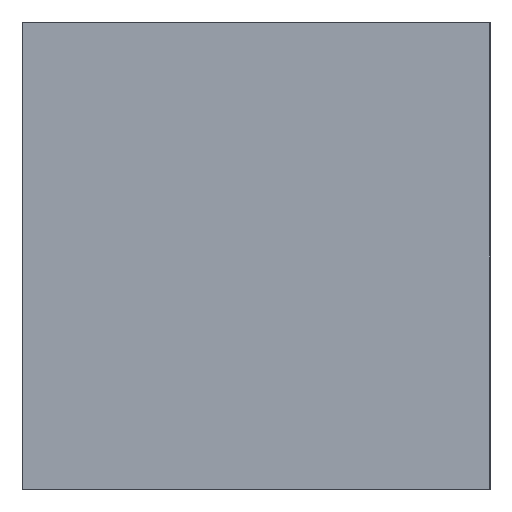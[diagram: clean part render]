
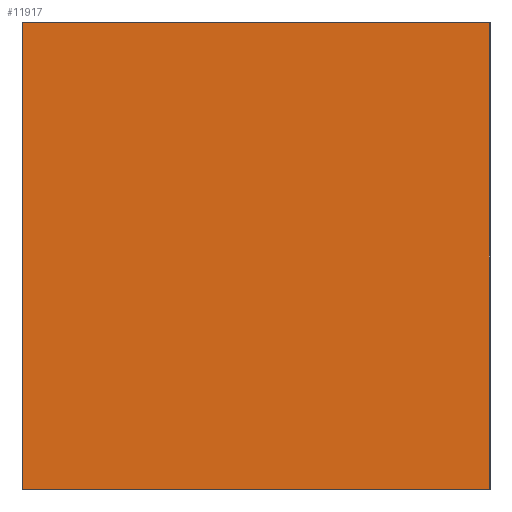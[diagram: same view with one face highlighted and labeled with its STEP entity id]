
A CAD part, top view. The second image highlights one B-rep face of the part: STEP entity #11917.
In plain terms, the highlighted planar face has unit normal (0, 0, 1).
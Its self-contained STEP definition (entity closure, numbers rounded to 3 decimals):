
#11878=CARTESIAN_POINT('',(0.,0.,20.));
#11879=DIRECTION('',(1.,0.,0.));
#11880=DIRECTION('',(0.,0.,1.));
#11881=AXIS2_PLACEMENT_3D('',#11878,#11880,#11879);
#11882=PLANE('',#11881);
#11883=CARTESIAN_POINT('',(548.5,-548.5,20.));
#11884=VERTEX_POINT('',#11883);
#11885=CARTESIAN_POINT('',(548.5,548.5,20.));
#11886=VERTEX_POINT('',#11885);
#11887=CARTESIAN_POINT('',(548.5,-548.5,20.));
#11888=DIRECTION('',(0.,1.,0.));
#11889=VECTOR('',#11888,1097.);
#11890=LINE('',#11887,#11889);
#11891=EDGE_CURVE('',#11884,#11886,#11890,.T.);
#11892=ORIENTED_EDGE('E118',*,*,#11891,.T.);
#11893=CARTESIAN_POINT('',(-548.5,548.5,20.));
#11894=VERTEX_POINT('',#11893);
#11895=CARTESIAN_POINT('',(548.5,548.5,20.));
#11896=DIRECTION('',(-1.,0.,0.));
#11897=VECTOR('',#11896,1097.);
#11898=LINE('',#11895,#11897);
#11899=EDGE_CURVE('',#11886,#11894,#11898,.T.);
#11900=ORIENTED_EDGE('E119',*,*,#11899,.T.);
#11901=CARTESIAN_POINT('',(-548.5,-548.5,20.));
#11902=VERTEX_POINT('',#11901);
#11903=CARTESIAN_POINT('',(-548.5,548.5,20.));
#11904=DIRECTION('',(0.,-1.,0.));
#11905=VECTOR('',#11904,1097.);
#11906=LINE('',#11903,#11905);
#11907=EDGE_CURVE('',#11894,#11902,#11906,.T.);
#11908=ORIENTED_EDGE('E120',*,*,#11907,.T.);
#11909=CARTESIAN_POINT('',(-548.5,-548.5,20.));
#11910=DIRECTION('',(1.,0.,0.));
#11911=VECTOR('',#11910,1097.);
#11912=LINE('',#11909,#11911);
#11913=EDGE_CURVE('',#11902,#11884,#11912,.T.);
#11914=ORIENTED_EDGE('E117',*,*,#11913,.T.);
#11915=EDGE_LOOP('',(#11892,#11900,#11908,#11914));
#11916=FACE_OUTER_BOUND('',#11915,.T.);
#11917=ADVANCED_FACE('F2',(#11916),#11882,.T.);
